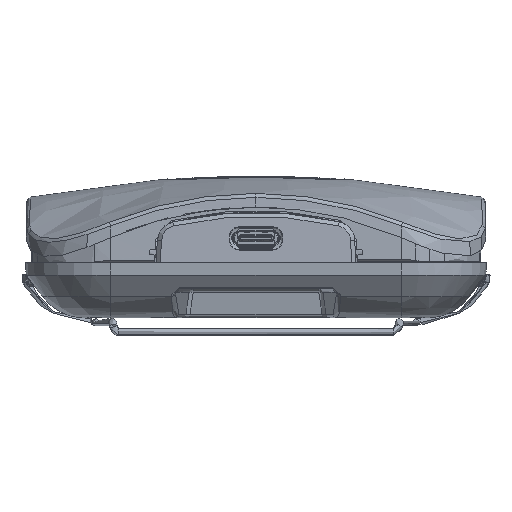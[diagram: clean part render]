
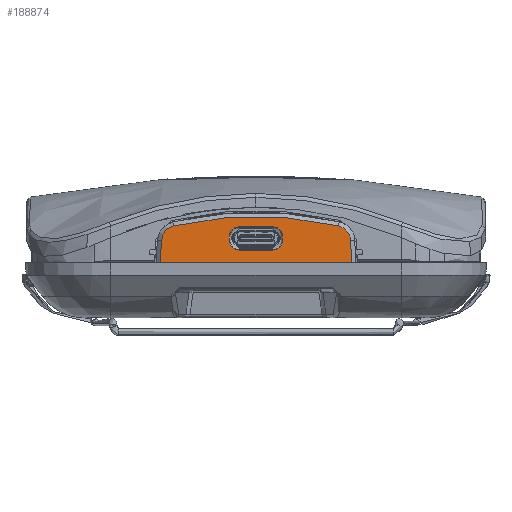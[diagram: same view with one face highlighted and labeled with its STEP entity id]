
A CAD part, front view. The second image highlights one B-rep face of the part: STEP entity #188874.
In plain terms, the highlighted planar face has unit normal (0, -1, 0.005).
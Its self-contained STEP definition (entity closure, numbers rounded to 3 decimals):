
#174683=DIRECTION('',(-1.,0.,0.));
#174684=VECTOR('',#174683,36.596);
#174685=CARTESIAN_POINT('',(18.298,-45.,
109.762));
#174686=LINE('',#174685,#174684);
#176946=DIRECTION('',(-1.,0.,0.));
#176947=VECTOR('',#176946,6.34);
#176948=CARTESIAN_POINT('',(3.17,-44.964,
116.694));
#176949=LINE('',#176948,#176947);
#176988=DIRECTION('',(0.,-0.005,
-1.));
#176989=VECTOR('',#176988,0.56);
#176990=CARTESIAN_POINT('',(-5.153,-44.974,
114.711));
#176991=LINE('',#176990,#176989);
#177022=DIRECTION('',(1.,0.,0.));
#177023=VECTOR('',#177022,6.34);
#177024=CARTESIAN_POINT('',(-3.17,-44.987,
112.169));
#177025=LINE('',#177024,#177023);
#177060=DIRECTION('',(0.,0.005,1.));
#177061=VECTOR('',#177060,0.56);
#177062=CARTESIAN_POINT('',(5.153,-44.977,
114.151));
#177063=LINE('',#177062,#177061);
#177098=CARTESIAN_POINT('',(-3.17,-44.974,114.711));
#177099=DIRECTION('',(0.,1.,-0.005));
#177100=DIRECTION('',(-1.,0.,0.));
#177101=AXIS2_PLACEMENT_3D('',#177098,#177099,#177100);
#177103=CARTESIAN_POINT('',(-3.17,-44.977,114.151));
#177104=DIRECTION('',(0.,1.,-0.005));
#177105=DIRECTION('',(0.,-0.005,
-1.));
#177106=AXIS2_PLACEMENT_3D('',#177103,#177104,#177105);
#177108=CARTESIAN_POINT('',(3.17,-44.977,114.151));
#177109=DIRECTION('',(0.,1.,-0.005));
#177110=DIRECTION('',(1.,0.,0.));
#177111=AXIS2_PLACEMENT_3D('',#177108,#177109,#177110);
#177113=CARTESIAN_POINT('',(3.17,-44.974,114.711));
#177114=DIRECTION('',(0.,1.,-0.005));
#177115=DIRECTION('',(0.,0.005,1.));
#177116=AXIS2_PLACEMENT_3D('',#177113,#177114,#177115);
#177118=CARTESIAN_POINT('',(-15.077,-44.978,
113.894));
#177119=DIRECTION('',(0.,-1.,
0.005));
#177120=DIRECTION('',(-0.231,0.005,0.973));
#177121=AXIS2_PLACEMENT_3D('',#177118,#177119,#177120);
#177123=CARTESIAN_POINT('',(0.013,-45.312,
50.27));
#177124=DIRECTION('',(0.,-1.,0.005));
#177125=DIRECTION('',(0.23,0.005,0.973));
#177126=AXIS2_PLACEMENT_3D('',#177123,#177124,#177125);
#177128=CARTESIAN_POINT('',(15.077,-44.978,
113.9));
#177129=DIRECTION('',(0.,-1.,0.005));
#177130=DIRECTION('',(0.768,0.003,0.641));
#177131=AXIS2_PLACEMENT_3D('',#177128,#177129,#177130);
#177133=CARTESIAN_POINT('',(15.077,-44.978,
113.9));
#177134=DIRECTION('',(0.,-1.,0.005));
#177135=DIRECTION('',(0.999,0.,0.052));
#177136=AXIS2_PLACEMENT_3D('',#177133,#177134,#177135);
#177138=DIRECTION('',(0.052,-0.005,-0.999));
#177139=VECTOR('',#177138,4.301);
#177140=CARTESIAN_POINT('',(18.073,-44.978,
114.057));
#177141=LINE('',#177140,#177139);
#177186=DIRECTION('',(0.052,0.005,0.999));
#177187=VECTOR('',#177186,4.295);
#177188=CARTESIAN_POINT('',(-18.298,-45.,
109.762));
#177189=LINE('',#177188,#177187);
#183562=CARTESIAN_POINT('',(15.768,-44.963,
116.82));
#183563=CARTESIAN_POINT('',(-15.77,-44.963,
116.813));
#183564=VERTEX_POINT('',#183562);
#183565=VERTEX_POINT('',#183563);
#183570=CARTESIAN_POINT('',(17.38,-44.968,
115.822));
#183571=VERTEX_POINT('',#183570);
#183572=CARTESIAN_POINT('',(18.073,-44.978,
114.057));
#183573=VERTEX_POINT('',#183572);
#183578=CARTESIAN_POINT('',(18.298,-45.,
109.762));
#183579=VERTEX_POINT('',#183578);
#183601=CARTESIAN_POINT('',(-18.073,-44.978,
114.051));
#183602=VERTEX_POINT('',#183601);
#183603=CARTESIAN_POINT('',(-18.298,-45.,
109.762));
#183604=VERTEX_POINT('',#183603);
#183607=CARTESIAN_POINT('',(-5.153,-44.974,
114.711));
#183608=CARTESIAN_POINT('',(-3.17,-44.964,
116.694));
#183609=VERTEX_POINT('',#183607);
#183610=VERTEX_POINT('',#183608);
#183611=CARTESIAN_POINT('',(3.17,-44.964,
116.694));
#183612=VERTEX_POINT('',#183611);
#183613=CARTESIAN_POINT('',(5.153,-44.974,
114.711));
#183614=VERTEX_POINT('',#183613);
#183615=CARTESIAN_POINT('',(5.153,-44.977,
114.151));
#183616=VERTEX_POINT('',#183615);
#183617=CARTESIAN_POINT('',(3.17,-44.987,
112.169));
#183618=VERTEX_POINT('',#183617);
#183619=CARTESIAN_POINT('',(-3.17,-44.987,
112.169));
#183620=VERTEX_POINT('',#183619);
#183621=CARTESIAN_POINT('',(-5.153,-44.977,
114.151));
#183622=VERTEX_POINT('',#183621);
#188844=CARTESIAN_POINT('',(-18.299,-44.972,
115.157));
#188845=DIRECTION('',(0.,-1.,0.005));
#188846=DIRECTION('',(0.,-0.005,-1.));
#188847=AXIS2_PLACEMENT_3D('',#188844,#188845,#188846);
#188848=PLANE('',#188847);
#188850=ORIENTED_EDGE('',*,*,#188849,.T.);
#188851=ORIENTED_EDGE('',*,*,#185641,.T.);
#188853=ORIENTED_EDGE('',*,*,#188852,.T.);
#188855=ORIENTED_EDGE('',*,*,#188854,.F.);
#188857=ORIENTED_EDGE('',*,*,#188856,.F.);
#188859=ORIENTED_EDGE('',*,*,#188858,.F.);
#188861=ORIENTED_EDGE('',*,*,#188860,.F.);
#188862=EDGE_LOOP('',(#188850,#188851,#188853,#188855,#188857,#188859,#188861));
#188863=FACE_OUTER_BOUND('',#188862,.F.);
#188864=ORIENTED_EDGE('',*,*,#188732,.F.);
#188865=ORIENTED_EDGE('',*,*,#188753,.T.);
#188866=ORIENTED_EDGE('',*,*,#188767,.F.);
#188867=ORIENTED_EDGE('',*,*,#188785,.T.);
#188868=ORIENTED_EDGE('',*,*,#188802,.F.);
#188869=ORIENTED_EDGE('',*,*,#188820,.T.);
#188870=ORIENTED_EDGE('',*,*,#188835,.F.);
#188871=ORIENTED_EDGE('',*,*,#188713,.T.);
#188872=EDGE_LOOP('',(#188864,#188865,#188866,#188867,#188868,#188869,#188870,
#188871));
#188873=FACE_BOUND('',#188872,.F.);
#188874=ADVANCED_FACE('',(#188863,#188873),#188848,.T.);
#177102=CIRCLE('',#177101,1.983);
#177107=CIRCLE('',#177106,1.983);
#177112=CIRCLE('',#177111,1.983);
#177117=CIRCLE('',#177116,1.983);
#177122=CIRCLE('',#177121,3.);
#177127=CIRCLE('',#177126,68.39);
#177132=CIRCLE('',#177131,3.);
#177137=CIRCLE('',#177136,3.);
#185641=EDGE_CURVE('',#183579,#183604,#174686,.T.);
#188713=EDGE_CURVE('',#183612,#183610,#176949,.T.);
#188732=EDGE_CURVE('',#183609,#183610,#177102,.T.);
#188753=EDGE_CURVE('',#183609,#183622,#176991,.T.);
#188767=EDGE_CURVE('',#183620,#183622,#177107,.T.);
#188785=EDGE_CURVE('',#183620,#183618,#177025,.T.);
#188802=EDGE_CURVE('',#183616,#183618,#177112,.T.);
#188820=EDGE_CURVE('',#183616,#183614,#177063,.T.);
#188835=EDGE_CURVE('',#183612,#183614,#177117,.T.);
#188849=EDGE_CURVE('',#183573,#183579,#177141,.T.);
#188852=EDGE_CURVE('',#183604,#183602,#177189,.T.);
#188854=EDGE_CURVE('',#183565,#183602,#177122,.T.);
#188856=EDGE_CURVE('',#183564,#183565,#177127,.T.);
#188858=EDGE_CURVE('',#183571,#183564,#177132,.T.);
#188860=EDGE_CURVE('',#183573,#183571,#177137,.T.);
